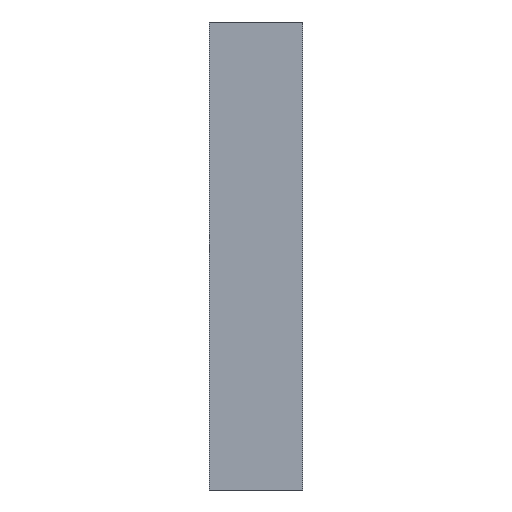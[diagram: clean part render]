
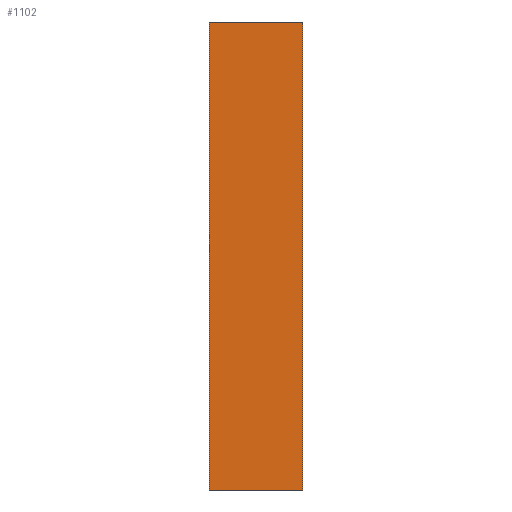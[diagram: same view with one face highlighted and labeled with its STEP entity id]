
A CAD part, left-side view. The second image highlights one B-rep face of the part: STEP entity #1102.
In plain terms, the highlighted planar face has unit normal (-1, 0, 0).
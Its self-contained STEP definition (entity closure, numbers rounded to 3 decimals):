
#138 = VERTEX_POINT ( 'NONE', #3307 ) ;
#181 = CARTESIAN_POINT ( 'NONE',  ( 0., 8., 0. ) ) ;
#247 = VECTOR ( 'NONE', #2806, 1000. ) ;
#326 = CARTESIAN_POINT ( 'NONE',  ( 0., 8., -40. ) ) ;
#635 = VECTOR ( 'NONE', #2964, 1000. ) ;
#677 = CARTESIAN_POINT ( 'NONE',  ( 0., 8., 0. ) ) ;
#823 = EDGE_CURVE ( 'NONE', #3144, #3880, #1018, .T. ) ;
#895 = CARTESIAN_POINT ( 'NONE',  ( 0., 8., 0. ) ) ;
#1018 = LINE ( 'NONE', #895, #2818 ) ;
#1102 = ADVANCED_FACE ( 'NONE', ( #1690 ), #3023, .F. ) ;
#1618 = ORIENTED_EDGE ( 'NONE', *, *, #1960, .T. ) ;
#1690 = FACE_OUTER_BOUND ( 'NONE', #3856, .T. ) ;
#1795 = AXIS2_PLACEMENT_3D ( 'NONE', #677, #2697, #3989 ) ;
#1840 = CARTESIAN_POINT ( 'NONE',  ( 0., 8., 0. ) ) ;
#1891 = VECTOR ( 'NONE', #2515, 1000. ) ;
#1960 = EDGE_CURVE ( 'NONE', #138, #3880, #3482, .T. ) ;
#2083 = EDGE_CURVE ( 'NONE', #3618, #138, #3106, .T. ) ;
#2156 = ORIENTED_EDGE ( 'NONE', *, *, #3628, .F. ) ;
#2515 = DIRECTION ( 'NONE',  ( 0., 0., 1. ) ) ;
#2614 = ORIENTED_EDGE ( 'NONE', *, *, #823, .F. ) ;
#2697 = DIRECTION ( 'NONE',  ( 1., 0., 0. ) ) ;
#2806 = DIRECTION ( 'NONE',  ( 0., 0., 1. ) ) ;
#2818 = VECTOR ( 'NONE', #3518, 1000. ) ;
#2964 = DIRECTION ( 'NONE',  ( 0., -1., 0. ) ) ;
#2982 = LINE ( 'NONE', #1840, #247 ) ;
#3023 = PLANE ( 'NONE',  #1795 ) ;
#3106 = LINE ( 'NONE', #326, #635 ) ;
#3144 = VERTEX_POINT ( 'NONE', #181 ) ;
#3222 = CARTESIAN_POINT ( 'NONE',  ( 0., 0., 0. ) ) ;
#3307 = CARTESIAN_POINT ( 'NONE',  ( 0., 0., -40. ) ) ;
#3482 = LINE ( 'NONE', #4160, #1891 ) ;
#3518 = DIRECTION ( 'NONE',  ( 0., -1., 0. ) ) ;
#3618 = VERTEX_POINT ( 'NONE', #3752 ) ;
#3628 = EDGE_CURVE ( 'NONE', #3618, #3144, #2982, .T. ) ;
#3752 = CARTESIAN_POINT ( 'NONE',  ( 0., 8., -40. ) ) ;
#3856 = EDGE_LOOP ( 'NONE', ( #1618, #2614, #2156, #4006 ) ) ;
#3880 = VERTEX_POINT ( 'NONE', #3222 ) ;
#3989 = DIRECTION ( 'NONE',  ( 0., 0., -1. ) ) ;
#4006 = ORIENTED_EDGE ( 'NONE', *, *, #2083, .T. ) ;
#4160 = CARTESIAN_POINT ( 'NONE',  ( 0., 0., 0. ) ) ;
